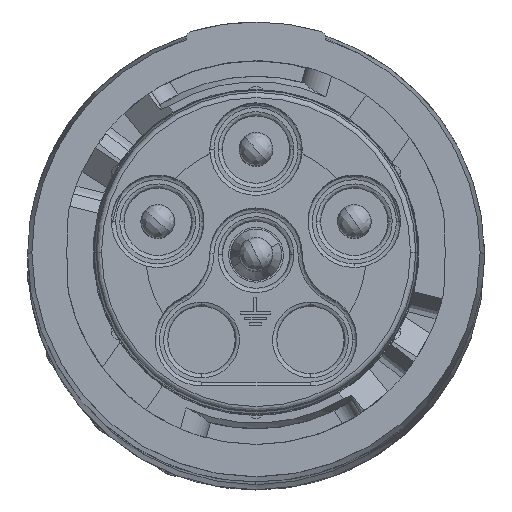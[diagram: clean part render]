
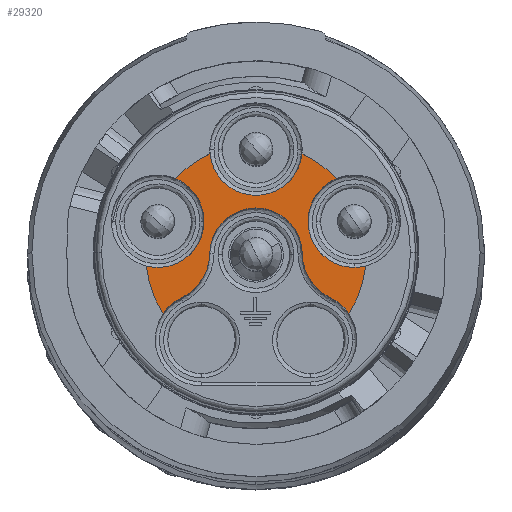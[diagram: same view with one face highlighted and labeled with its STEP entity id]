
A CAD part, top view. The second image highlights one B-rep face of the part: STEP entity #29320.
In plain terms, the highlighted planar face has unit normal (0, 0, 1).
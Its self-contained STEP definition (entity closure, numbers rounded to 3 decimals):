
#184 = DIRECTION ( 'NONE',  ( 1., 0., 0. ) ) ;
#1017 = AXIS2_PLACEMENT_3D ( 'NONE', #3841, #36777, #25255 ) ;
#1022 = ORIENTED_EDGE ( 'NONE', *, *, #54134, .T. ) ;
#1683 = EDGE_LOOP ( 'NONE', ( #53658, #1022, #78350, #10998, #13804, #5511, #87975, #60978, #17287, #33968, #29207, #25023, #12422, #82528 ) ) ;
#3337 = AXIS2_PLACEMENT_3D ( 'NONE', #21186, #86171, #71463 ) ;
#3361 = CIRCLE ( 'NONE', #47248, 2.2 ) ;
#3447 = DIRECTION ( 'NONE',  ( 1., 0., 0. ) ) ;
#3841 = CARTESIAN_POINT ( 'NONE',  ( 3.476, 0.453, 1.08 ) ) ;
#5511 = ORIENTED_EDGE ( 'NONE', *, *, #72813, .T. ) ;
#5582 = CARTESIAN_POINT ( 'NONE',  ( 0.989, 3.658, 1.08 ) ) ;
#7750 = CIRCLE ( 'NONE', #66871, 2.2 ) ;
#8706 = CARTESIAN_POINT ( 'NONE',  ( 2.626, 2.482, 1.08 ) ) ;
#9334 = DIRECTION ( 'NONE',  ( 1., 0., 0. ) ) ;
#9561 = DIRECTION ( 'NONE',  ( 1., 0., 0. ) ) ;
#10844 = DIRECTION ( 'NONE',  ( 0., 0., 1. ) ) ;
#10998 = ORIENTED_EDGE ( 'NONE', *, *, #21046, .T. ) ;
#11052 = DIRECTION ( 'NONE',  ( 1., 0., 0. ) ) ;
#12422 = ORIENTED_EDGE ( 'NONE', *, *, #23359, .T. ) ;
#13518 = DIRECTION ( 'NONE',  ( 0., 0., -1. ) ) ;
#13804 = ORIENTED_EDGE ( 'NONE', *, *, #91882, .T. ) ;
#14008 = CIRCLE ( 'NONE', #47296, 2.4 ) ;
#14654 = DIRECTION ( 'NONE',  ( 0., 0., 1. ) ) ;
#17076 = DIRECTION ( 'NONE',  ( 1., 0., 0. ) ) ;
#17287 = ORIENTED_EDGE ( 'NONE', *, *, #42341, .T. ) ;
#17291 = DIRECTION ( 'NONE',  ( 0., 0., -1. ) ) ;
#17535 = CARTESIAN_POINT ( 'NONE',  ( -5.798, -1.035, 1.08 ) ) ;
#17682 = EDGE_CURVE ( 'NONE', #80163, #41767, #71800, .T. ) ;
#18660 = CARTESIAN_POINT ( 'NONE',  ( -5.874, 0.453, 1.08 ) ) ;
#19749 = CIRCLE ( 'NONE', #31859, 5.25 ) ;
#19938 = VERTEX_POINT ( 'NONE', #49335 ) ;
#20135 = DIRECTION ( 'NONE',  ( 1., 0., 0. ) ) ;
#20880 = AXIS2_PLACEMENT_3D ( 'NONE', #62396, #27238, #20135 ) ;
#21046 = EDGE_CURVE ( 'NONE', #89021, #47505, #24110, .T. ) ;
#21186 = CARTESIAN_POINT ( 'NONE',  ( -1.199, 1.386, 1.08 ) ) ;
#21325 = DIRECTION ( 'NONE',  ( 1., 0., 0. ) ) ;
#21345 = VERTEX_POINT ( 'NONE', #8706 ) ;
#22462 = CIRCLE ( 'NONE', #20880, 2.2 ) ;
#22519 = CARTESIAN_POINT ( 'NONE',  ( -6.419, -1.678, 1.08 ) ) ;
#23359 = EDGE_CURVE ( 'NONE', #58744, #37146, #51060, .T. ) ;
#23505 = CARTESIAN_POINT ( 'NONE',  ( -5.618, -3.949, 1.08 ) ) ;
#23947 = DIRECTION ( 'NONE',  ( 0., 0., -1. ) ) ;
#24110 = CIRCLE ( 'NONE', #48274, 2.2 ) ;
#24883 = AXIS2_PLACEMENT_3D ( 'NONE', #50539, #71897, #79447 ) ;
#25023 = ORIENTED_EDGE ( 'NONE', *, *, #74310, .T. ) ;
#25255 = DIRECTION ( 'NONE',  ( 1., 0., 0. ) ) ;
#27238 = DIRECTION ( 'NONE',  ( 0., 0., -1. ) ) ;
#27856 = CIRCLE ( 'NONE', #52143, 2.2 ) ;
#28296 = FACE_OUTER_BOUND ( 'NONE', #1683, .T. ) ;
#29207 = ORIENTED_EDGE ( 'NONE', *, *, #42639, .T. ) ;
#29320 = ADVANCED_FACE ( 'NONE', ( #28296 ), #55376, .T. ) ;
#31859 = AXIS2_PLACEMENT_3D ( 'NONE', #58339, #14654, #21325 ) ;
#32680 = VERTEX_POINT ( 'NONE', #38491 ) ;
#32814 = DIRECTION ( 'NONE',  ( 1., 0., 0. ) ) ;
#33968 = ORIENTED_EDGE ( 'NONE', *, *, #17682, .T. ) ;
#34423 = CARTESIAN_POINT ( 'NONE',  ( -3.399, -1.076, 1.08 ) ) ;
#36233 = EDGE_CURVE ( 'NONE', #48578, #19938, #7750, .T. ) ;
#36777 = DIRECTION ( 'NONE',  ( 0., 0., -1. ) ) ;
#36789 = EDGE_CURVE ( 'NONE', #21345, #78438, #44152, .T. ) ;
#37146 = VERTEX_POINT ( 'NONE', #42076 ) ;
#37202 = CARTESIAN_POINT ( 'NONE',  ( 1.001, -1.076, 1.08 ) ) ;
#38071 = AXIS2_PLACEMENT_3D ( 'NONE', #49663, #71025, #64401 ) ;
#38491 = CARTESIAN_POINT ( 'NONE',  ( -3.387, 3.658, 1.08 ) ) ;
#38606 = VERTEX_POINT ( 'NONE', #22519 ) ;
#41767 = VERTEX_POINT ( 'NONE', #76716 ) ;
#42076 = CARTESIAN_POINT ( 'NONE',  ( 1.276, 0.453, 1.08 ) ) ;
#42341 = EDGE_CURVE ( 'NONE', #86877, #80163, #47530, .T. ) ;
#42639 = EDGE_CURVE ( 'NONE', #41767, #85066, #27856, .T. ) ;
#44152 = CIRCLE ( 'NONE', #62385, 5.25 ) ;
#44921 = CARTESIAN_POINT ( 'NONE',  ( -1.199, -1.114, 1.08 ) ) ;
#45014 = CARTESIAN_POINT ( 'NONE',  ( -3.674, 0.453, 1.08 ) ) ;
#46126 = DIRECTION ( 'NONE',  ( 0., 0., 1. ) ) ;
#47248 = AXIS2_PLACEMENT_3D ( 'NONE', #18660, #17291, #3447 ) ;
#47296 = AXIS2_PLACEMENT_3D ( 'NONE', #17535, #10844, #17076 ) ;
#47505 = VERTEX_POINT ( 'NONE', #45014 ) ;
#47530 = CIRCLE ( 'NONE', #64266, 2.2 ) ;
#48274 = AXIS2_PLACEMENT_3D ( 'NONE', #67469, #53668, #61273 ) ;
#48578 = VERTEX_POINT ( 'NONE', #23505 ) ;
#49335 = CARTESIAN_POINT ( 'NONE',  ( -4.751, -3.194, 1.08 ) ) ;
#49663 = CARTESIAN_POINT ( 'NONE',  ( -1.199, -1.114, 1.08 ) ) ;
#50539 = CARTESIAN_POINT ( 'NONE',  ( 3.4, -1.035, 1.08 ) ) ;
#50660 = DIRECTION ( 'NONE',  ( 0., 0., 1. ) ) ;
#51060 = CIRCLE ( 'NONE', #1017, 2.2 ) ;
#51951 = EDGE_CURVE ( 'NONE', #19938, #86877, #14008, .T. ) ;
#52143 = AXIS2_PLACEMENT_3D ( 'NONE', #58500, #73152, #9561 ) ;
#52729 = CIRCLE ( 'NONE', #81443, 2.2 ) ;
#53658 = ORIENTED_EDGE ( 'NONE', *, *, #36789, .T. ) ;
#53668 = DIRECTION ( 'NONE',  ( 0., 0., -1. ) ) ;
#54134 = EDGE_CURVE ( 'NONE', #78438, #32680, #52729, .T. ) ;
#55376 = PLANE ( 'NONE',  #3337 ) ;
#56475 = CARTESIAN_POINT ( 'NONE',  ( 3.22, -3.949, 1.08 ) ) ;
#58122 = CARTESIAN_POINT ( 'NONE',  ( -5.024, 2.482, 1.08 ) ) ;
#58339 = CARTESIAN_POINT ( 'NONE',  ( -1.199, -1.114, 1.08 ) ) ;
#58500 = CARTESIAN_POINT ( 'NONE',  ( 1.392, -5.173, 1.08 ) ) ;
#58744 = VERTEX_POINT ( 'NONE', #89599 ) ;
#58861 = EDGE_CURVE ( 'NONE', #32680, #89021, #89662, .T. ) ;
#60154 = DIRECTION ( 'NONE',  ( 1., 0., 0. ) ) ;
#60978 = ORIENTED_EDGE ( 'NONE', *, *, #51951, .T. ) ;
#61273 = DIRECTION ( 'NONE',  ( 1., 0., 0. ) ) ;
#62253 = CARTESIAN_POINT ( 'NONE',  ( -1.199, -1.114, 1.08 ) ) ;
#62385 = AXIS2_PLACEMENT_3D ( 'NONE', #62253, #46126, #32814 ) ;
#62396 = CARTESIAN_POINT ( 'NONE',  ( 3.476, 0.453, 1.08 ) ) ;
#64266 = AXIS2_PLACEMENT_3D ( 'NONE', #86564, #13518, #184 ) ;
#64401 = DIRECTION ( 'NONE',  ( 1., 0., 0. ) ) ;
#66871 = AXIS2_PLACEMENT_3D ( 'NONE', #83603, #23947, #11052 ) ;
#67469 = CARTESIAN_POINT ( 'NONE',  ( -5.874, 0.453, 1.08 ) ) ;
#71025 = DIRECTION ( 'NONE',  ( 0., 0., 1. ) ) ;
#71463 = DIRECTION ( 'NONE',  ( 1., 0., 0. ) ) ;
#71800 = CIRCLE ( 'NONE', #24883, 2.4 ) ;
#71897 = DIRECTION ( 'NONE',  ( 0., 0., 1. ) ) ;
#72813 = EDGE_CURVE ( 'NONE', #38606, #48578, #90292, .T. ) ;
#73152 = DIRECTION ( 'NONE',  ( 0., 0., -1. ) ) ;
#73875 = DIRECTION ( 'NONE',  ( 0., 0., -1. ) ) ;
#74310 = EDGE_CURVE ( 'NONE', #85066, #58744, #19749, .T. ) ;
#76716 = CARTESIAN_POINT ( 'NONE',  ( 2.352, -3.194, 1.08 ) ) ;
#78350 = ORIENTED_EDGE ( 'NONE', *, *, #58861, .T. ) ;
#78438 = VERTEX_POINT ( 'NONE', #5582 ) ;
#79447 = DIRECTION ( 'NONE',  ( 1., 0., 0. ) ) ;
#79575 = AXIS2_PLACEMENT_3D ( 'NONE', #44921, #50660, #9334 ) ;
#80163 = VERTEX_POINT ( 'NONE', #37202 ) ;
#81443 = AXIS2_PLACEMENT_3D ( 'NONE', #88163, #73875, #60154 ) ;
#82528 = ORIENTED_EDGE ( 'NONE', *, *, #84033, .T. ) ;
#83603 = CARTESIAN_POINT ( 'NONE',  ( -3.79, -5.173, 1.08 ) ) ;
#84033 = EDGE_CURVE ( 'NONE', #37146, #21345, #22462, .T. ) ;
#85066 = VERTEX_POINT ( 'NONE', #56475 ) ;
#86171 = DIRECTION ( 'NONE',  ( 0., 0., 1. ) ) ;
#86564 = CARTESIAN_POINT ( 'NONE',  ( -1.199, -1.114, 1.08 ) ) ;
#86877 = VERTEX_POINT ( 'NONE', #34423 ) ;
#87975 = ORIENTED_EDGE ( 'NONE', *, *, #36233, .T. ) ;
#88163 = CARTESIAN_POINT ( 'NONE',  ( -1.199, 3.886, 1.08 ) ) ;
#89021 = VERTEX_POINT ( 'NONE', #58122 ) ;
#89599 = CARTESIAN_POINT ( 'NONE',  ( 4.02, -1.678, 1.08 ) ) ;
#89662 = CIRCLE ( 'NONE', #38071, 5.25 ) ;
#90292 = CIRCLE ( 'NONE', #79575, 5.25 ) ;
#91882 = EDGE_CURVE ( 'NONE', #47505, #38606, #3361, .T. ) ;
